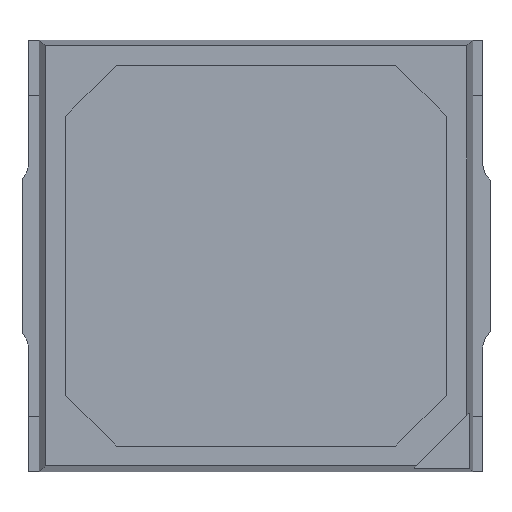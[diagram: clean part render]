
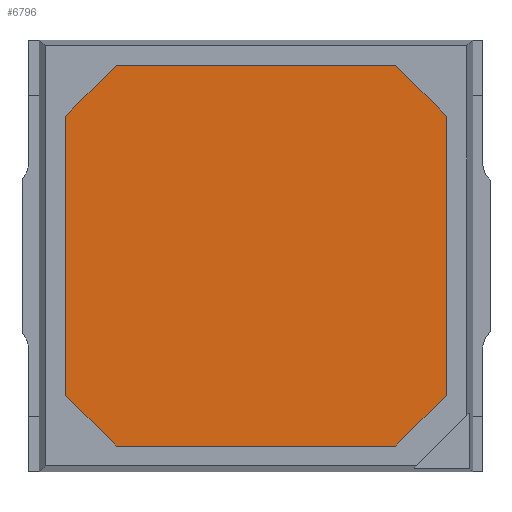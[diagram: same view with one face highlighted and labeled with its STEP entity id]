
A CAD part, top view. The second image highlights one B-rep face of the part: STEP entity #6796.
In plain terms, the highlighted planar face has unit normal (0, 0, 1).
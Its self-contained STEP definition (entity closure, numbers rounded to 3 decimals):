
#25 = CARTESIAN_POINT ( 'NONE',  ( -1.3, 0.956, 0.66 ) ) ;
#333 = VERTEX_POINT ( 'NONE', #1757 ) ;
#668 = VERTEX_POINT ( 'NONE', #4274 ) ;
#911 = CARTESIAN_POINT ( 'NONE',  ( 0.956, 1.3, 0.66 ) ) ;
#959 = DIRECTION ( 'NONE',  ( 0.707, 0.707, 0. ) ) ;
#978 = VECTOR ( 'NONE', #5897, 1000. ) ;
#1056 = EDGE_CURVE ( 'NONE', #333, #7279, #6174, .T. ) ;
#1074 = VECTOR ( 'NONE', #2677, 1000. ) ;
#1084 = ORIENTED_EDGE ( 'NONE', *, *, #2939, .T. ) ;
#1213 = CARTESIAN_POINT ( 'NONE',  ( -0.956, -1.3, 0.66 ) ) ;
#1619 = VECTOR ( 'NONE', #959, 1000. ) ;
#1721 = DIRECTION ( 'NONE',  ( 0., 0., 1. ) ) ;
#1731 = ORIENTED_EDGE ( 'NONE', *, *, #6902, .T. ) ;
#1757 = CARTESIAN_POINT ( 'NONE',  ( 0.956, 1.3, 0.66 ) ) ;
#1833 = VECTOR ( 'NONE', #6500, 1000. ) ;
#1848 = VERTEX_POINT ( 'NONE', #2334 ) ;
#1901 = VERTEX_POINT ( 'NONE', #5482 ) ;
#1949 = VECTOR ( 'NONE', #2777, 1000. ) ;
#1968 = LINE ( 'NONE', #3888, #1619 ) ;
#2007 = DIRECTION ( 'NONE',  ( 0., 1., 0. ) ) ;
#2195 = DIRECTION ( 'NONE',  ( 1., 0., 0. ) ) ;
#2317 = CARTESIAN_POINT ( 'NONE',  ( -0.956, 1.3, 0.66 ) ) ;
#2318 = EDGE_CURVE ( 'NONE', #7279, #1901, #2345, .T. ) ;
#2334 = CARTESIAN_POINT ( 'NONE',  ( 1.3, 0.956, 0.66 ) ) ;
#2345 = LINE ( 'NONE', #2317, #5340 ) ;
#2481 = ORIENTED_EDGE ( 'NONE', *, *, #2963, .T. ) ;
#2612 = CARTESIAN_POINT ( 'NONE',  ( 0.956, -1.3, 0.66 ) ) ;
#2677 = DIRECTION ( 'NONE',  ( -1., 0., 0. ) ) ;
#2775 = CARTESIAN_POINT ( 'NONE',  ( 1.3, -0.956, 0.66 ) ) ;
#2777 = DIRECTION ( 'NONE',  ( 0., -1., 0. ) ) ;
#2939 = EDGE_CURVE ( 'NONE', #1848, #333, #7024, .T. ) ;
#2963 = EDGE_CURVE ( 'NONE', #668, #5222, #7506, .T. ) ;
#3241 = ORIENTED_EDGE ( 'NONE', *, *, #6717, .T. ) ;
#3407 = ORIENTED_EDGE ( 'NONE', *, *, #4990, .T. ) ;
#3434 = LINE ( 'NONE', #25, #1949 ) ;
#3888 = CARTESIAN_POINT ( 'NONE',  ( 0.956, -1.3, 0.66 ) ) ;
#4056 = AXIS2_PLACEMENT_3D ( 'NONE', #6971, #1721, #2195 ) ;
#4106 = ORIENTED_EDGE ( 'NONE', *, *, #6436, .T. ) ;
#4140 = CARTESIAN_POINT ( 'NONE',  ( 1.3, 0.956, 0.66 ) ) ;
#4274 = CARTESIAN_POINT ( 'NONE',  ( -0.956, -1.3, 0.66 ) ) ;
#4558 = VERTEX_POINT ( 'NONE', #2775 ) ;
#4698 = LINE ( 'NONE', #4764, #1833 ) ;
#4764 = CARTESIAN_POINT ( 'NONE',  ( -1.3, -0.956, 0.66 ) ) ;
#4848 = EDGE_LOOP ( 'NONE', ( #2481, #1731, #3241, #1084, #7462, #7233, #3407, #4106 ) ) ;
#4943 = CARTESIAN_POINT ( 'NONE',  ( 1.3, -0.956, 0.66 ) ) ;
#4970 = CARTESIAN_POINT ( 'NONE',  ( -1.3, -0.956, 0.66 ) ) ;
#4990 = EDGE_CURVE ( 'NONE', #1901, #7242, #3434, .T. ) ;
#5195 = CARTESIAN_POINT ( 'NONE',  ( -0.956, 1.3, 0.66 ) ) ;
#5222 = VERTEX_POINT ( 'NONE', #2612 ) ;
#5340 = VECTOR ( 'NONE', #5741, 1000. ) ;
#5482 = CARTESIAN_POINT ( 'NONE',  ( -1.3, 0.956, 0.66 ) ) ;
#5741 = DIRECTION ( 'NONE',  ( -0.707, -0.707, 0. ) ) ;
#5897 = DIRECTION ( 'NONE',  ( -0.707, 0.707, 0. ) ) ;
#6070 = VECTOR ( 'NONE', #6532, 1000. ) ;
#6174 = LINE ( 'NONE', #911, #1074 ) ;
#6339 = FACE_OUTER_BOUND ( 'NONE', #4848, .T. ) ;
#6369 = VECTOR ( 'NONE', #2007, 1000. ) ;
#6436 = EDGE_CURVE ( 'NONE', #7242, #668, #4698, .T. ) ;
#6500 = DIRECTION ( 'NONE',  ( 0.707, -0.707, 0. ) ) ;
#6532 = DIRECTION ( 'NONE',  ( 1., 0., 0. ) ) ;
#6717 = EDGE_CURVE ( 'NONE', #4558, #1848, #7228, .T. ) ;
#6796 = ADVANCED_FACE ( 'NONE', ( #6339 ), #6857, .T. ) ;
#6857 = PLANE ( 'NONE',  #4056 ) ;
#6902 = EDGE_CURVE ( 'NONE', #5222, #4558, #1968, .T. ) ;
#6971 = CARTESIAN_POINT ( 'NONE',  ( 0., 0., 0.66 ) ) ;
#7024 = LINE ( 'NONE', #4140, #978 ) ;
#7228 = LINE ( 'NONE', #4943, #6369 ) ;
#7233 = ORIENTED_EDGE ( 'NONE', *, *, #2318, .T. ) ;
#7242 = VERTEX_POINT ( 'NONE', #4970 ) ;
#7279 = VERTEX_POINT ( 'NONE', #5195 ) ;
#7462 = ORIENTED_EDGE ( 'NONE', *, *, #1056, .T. ) ;
#7506 = LINE ( 'NONE', #1213, #6070 ) ;
